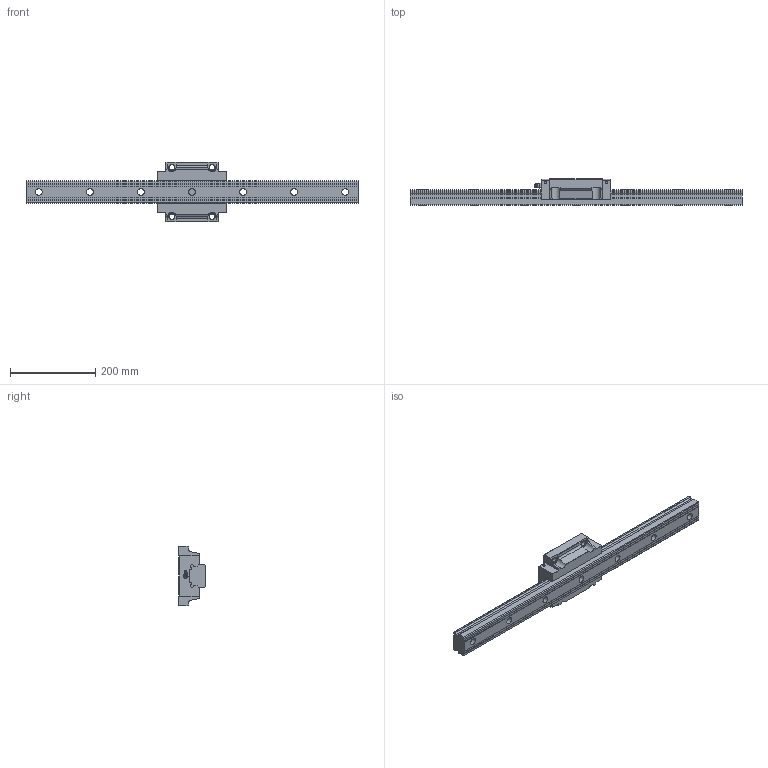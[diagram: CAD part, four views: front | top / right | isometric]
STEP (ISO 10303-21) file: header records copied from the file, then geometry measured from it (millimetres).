
FILE_DESCRIPTION(/* description */ ('STEP AP203'),/* implementation_level */ '2;1');
FILE_NAME(/* name */ 'SVR55C1SS-780L_G30_0_B-PT18_308-35_0_0_0_1',/* time_stamp */ '2024-05-17T07:23:04+02:00',/* author */ ('License CC BY-ND 4.0'),/* organization */ ('CADENAS'),/* preprocessor_version */ 'ST-DEVELOPER v19.3',/* originating_system */ 'PARTsolutions',/* authorisation */ ' ');
FILE_SCHEMA (('CONFIG_CONTROL_DESIGN'));
Length unit declared in the file: millimetre
Products named in the file (4): SVR55C1SS-780L_G30_0_B-PT18_308-35_0_0_0_1; SVR 55C78030 R Track; SVR 55C1SSB-PT1/81 Slide; B-PT1/8_grease_nipple_joint1_SVR
Assembly tree (3 placements, depth 2):
  SVR55C1SS-780L_G30_0_B-PT18_308-35_0_0_0_1
    SVR 55C78030 R Track
    SVR 55C1SSB-PT1/81 Slide
    B-PT1/8_grease_nipple_joint1_SVR
Bounding box: 780 x 63 x 140 mm (x, y, z)
Volume: 2054766.4 mm3; surface area: 240400.6 mm2
Topology: 3 solids, 3 shells, 224 faces, 598 edges, 393 vertices
Faces by surface type: plane 128, cylinder 71, cone 20, torus 3, sphere 2
Full cylindrical faces by diameter (mm): 5.2 x4, 9.6 x1, 12.5 x4, 16 x7, 23 x7
Entity records: 6880 total; most frequent: CARTESIAN_POINT 1327, DIRECTION 1122, ORIENTED_EDGE 1078, EDGE_CURVE 539, AXIS2_PLACEMENT_3D 398, VERTEX_POINT 384, LINE 326, VECTOR 326
